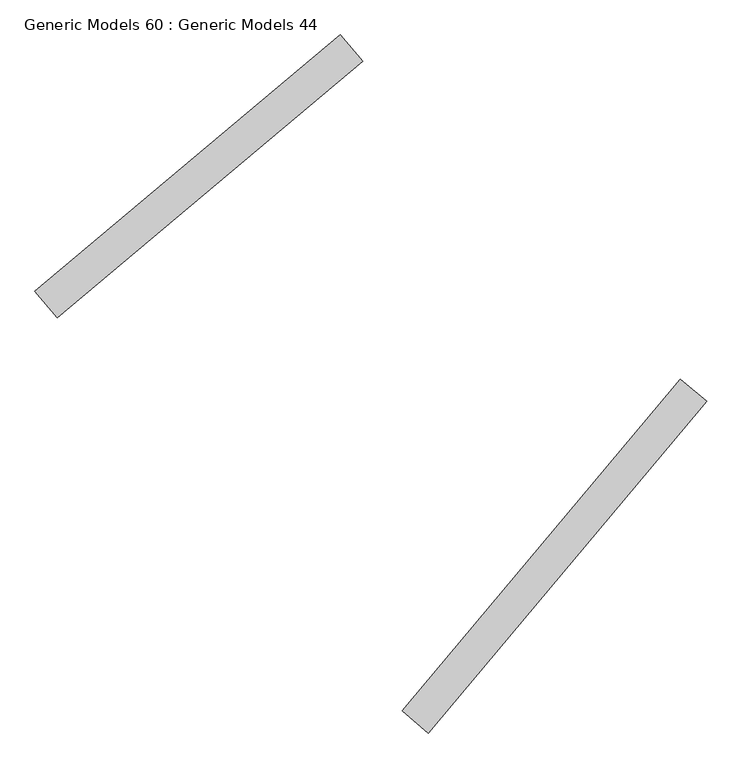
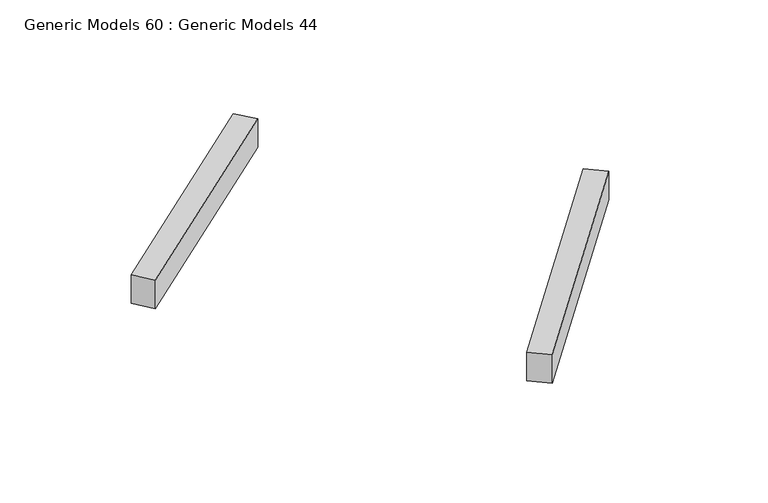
"""IFC4 building model written with IfcOpenShell, lengths in millimetres: proxy geometry, Generic Models 60 : Generic Models 44."""

from ifc_helpers import new_model, si_unit, frame, origin, place, context, project, spatial, polyline, outline, extrude, source, transform, mapped, element, save


def generic_models_60_generic_models_44_28677a19(model_context):
    return source(origin(), model_context, "Body", "SweptSolid", [
        extrude(outline(polyline([(-50142.2374789, -35737.0994253), (-50295.4463675, -35608.5419033), (-48684.419015, -33688.5942681), (-48531.2101263, -33817.1517901), (-50142.2374789, -35737.0994253)])), frame((0.0, 0.0, 42770.0), z_axis=(0.0, 0.0, 1.0), x_axis=(1.0, 0.0, 0.0)), (0.0, 0.0, 1.0), 268.5053554),
        extrude(outline(polyline([(-52291.2643205, -33333.9533005), (-52419.8218424, -33180.7444118), (-50651.454168, -31696.9077484), (-50522.896646, -31850.116637), (-52291.2643205, -33333.9533005)])), frame((0.0, 0.0, 42770.0), z_axis=(0.0, 0.0, 1.0), x_axis=(1.0, 0.0, 0.0)), (0.0, 0.0, 1.0), 268.5053554),
    ])


if __name__ == "__main__":
    model = new_model("IFC4")
    model_context = context("Model", 3, world=origin())
    ifc_project = project(units=[si_unit("LENGTHUNIT", "METRE", prefix="MILLI")], contexts=[model_context])
    site = spatial("IfcSite", under=ifc_project)
    building = spatial("IfcBuilding", under=site)
    placement = place(None, origin())
    generic_models_60_generic_models_44_shape = generic_models_60_generic_models_44_28677a19(model_context)
    element("IfcBuildingElementProxy", 1, Name="Generic Models 60 : Generic Models 44", ObjectType="Generic Models 60 : Generic Models 44", at=placement, inside=building, context=model_context, shape_type="MappedRepresentation", body=[
        mapped(generic_models_60_generic_models_44_shape, transform((0.0, 0.0, 0.0), x_axis=(1.0, 0.0, 0.0), y_axis=(0.0, 1.0, 0.0), z_axis=(0.0, 0.0, 1.0))),
    ])
    save(model, "model.ifc")
